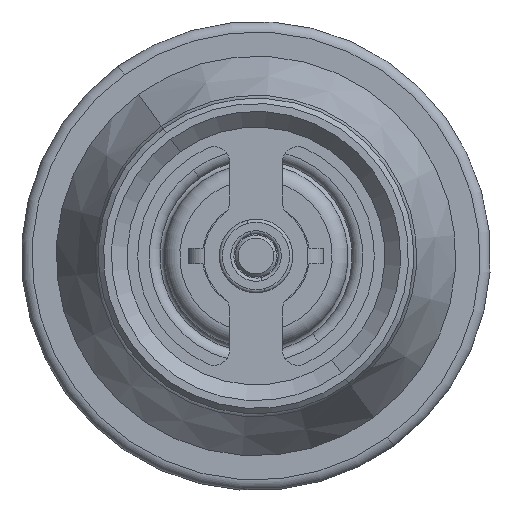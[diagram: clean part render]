
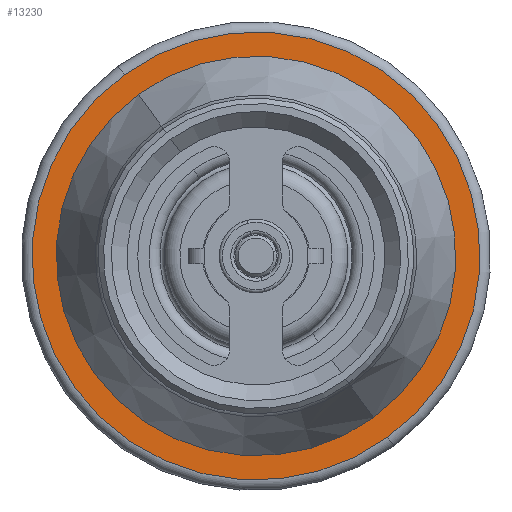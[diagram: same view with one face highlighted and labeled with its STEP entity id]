
A CAD part, front view. The second image highlights one B-rep face of the part: STEP entity #13230.
In plain terms, the highlighted planar face has unit normal (0, -1, 0).
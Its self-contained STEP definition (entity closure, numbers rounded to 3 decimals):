
#433 = FACE_OUTER_BOUND ( 'NONE', #1414, .T. ) ;
#1022 = ORIENTED_EDGE ( 'NONE', *, *, #9947, .T. ) ;
#1305 = CARTESIAN_POINT ( 'NONE',  ( 0., 2.9, 0. ) ) ;
#1414 = EDGE_LOOP ( 'NONE', ( #7029, #1022 ) ) ;
#1427 = CARTESIAN_POINT ( 'NONE',  ( 0., 2.9, -21.3 ) ) ;
#1560 = AXIS2_PLACEMENT_3D ( 'NONE', #14459, #5682, #17322 ) ;
#1685 = DIRECTION ( 'NONE',  ( 0., 0., -1. ) ) ;
#2228 = DIRECTION ( 'NONE',  ( 0., 0., -1. ) ) ;
#5541 = FACE_BOUND ( 'NONE', #18528, .T. ) ;
#5682 = DIRECTION ( 'NONE',  ( 0., -1., 0. ) ) ;
#5732 = CIRCLE ( 'NONE', #1560, 15.85 ) ;
#6682 = CARTESIAN_POINT ( 'NONE',  ( 15.85, 2.9, 0. ) ) ;
#7029 = ORIENTED_EDGE ( 'NONE', *, *, #7912, .T. ) ;
#7150 = CARTESIAN_POINT ( 'NONE',  ( 0., 2.9, 15.85 ) ) ;
#7536 = EDGE_CURVE ( 'NONE', #13150, #18631, #5732, .T. ) ;
#7912 = EDGE_CURVE ( 'NONE', #12389, #8862, #9598, .T. ) ;
#8009 = DIRECTION ( 'NONE',  ( 0., -1., 0. ) ) ;
#8330 = AXIS2_PLACEMENT_3D ( 'NONE', #14024, #8009, #10889 ) ;
#8777 = DIRECTION ( 'NONE',  ( 0., 0., -1. ) ) ;
#8862 = VERTEX_POINT ( 'NONE', #17288 ) ;
#9079 = CARTESIAN_POINT ( 'NONE',  ( 0., 2.9, 0. ) ) ;
#9131 = CARTESIAN_POINT ( 'NONE',  ( 0., 2.9, -15.85 ) ) ;
#9151 = ORIENTED_EDGE ( 'NONE', *, *, #10659, .F. ) ;
#9598 = CIRCLE ( 'NONE', #8330, 21.3 ) ;
#9947 = EDGE_CURVE ( 'NONE', #8862, #12389, #18284, .T. ) ;
#10078 = AXIS2_PLACEMENT_3D ( 'NONE', #6682, #16817, #2228 ) ;
#10659 = EDGE_CURVE ( 'NONE', #18631, #13150, #13909, .T. ) ;
#10858 = AXIS2_PLACEMENT_3D ( 'NONE', #1305, #13189, #8777 ) ;
#10889 = DIRECTION ( 'NONE',  ( 0., 0., -1. ) ) ;
#11689 = AXIS2_PLACEMENT_3D ( 'NONE', #9079, #15051, #1685 ) ;
#12389 = VERTEX_POINT ( 'NONE', #1427 ) ;
#13150 = VERTEX_POINT ( 'NONE', #9131 ) ;
#13174 = ORIENTED_EDGE ( 'NONE', *, *, #7536, .F. ) ;
#13189 = DIRECTION ( 'NONE',  ( 0., -1., 0. ) ) ;
#13230 = ADVANCED_FACE ( 'NONE', ( #433, #5541 ), #15471, .T. ) ;
#13909 = CIRCLE ( 'NONE', #10858, 15.85 ) ;
#14024 = CARTESIAN_POINT ( 'NONE',  ( 0., 2.9, 0. ) ) ;
#14459 = CARTESIAN_POINT ( 'NONE',  ( 0., 2.9, 0. ) ) ;
#15051 = DIRECTION ( 'NONE',  ( 0., -1., 0. ) ) ;
#15471 = PLANE ( 'NONE',  #10078 ) ;
#16817 = DIRECTION ( 'NONE',  ( 0., -1., 0. ) ) ;
#17288 = CARTESIAN_POINT ( 'NONE',  ( 0., 2.9, 21.3 ) ) ;
#17322 = DIRECTION ( 'NONE',  ( 0., 0., -1. ) ) ;
#18284 = CIRCLE ( 'NONE', #11689, 21.3 ) ;
#18528 = EDGE_LOOP ( 'NONE', ( #13174, #9151 ) ) ;
#18631 = VERTEX_POINT ( 'NONE', #7150 ) ;
